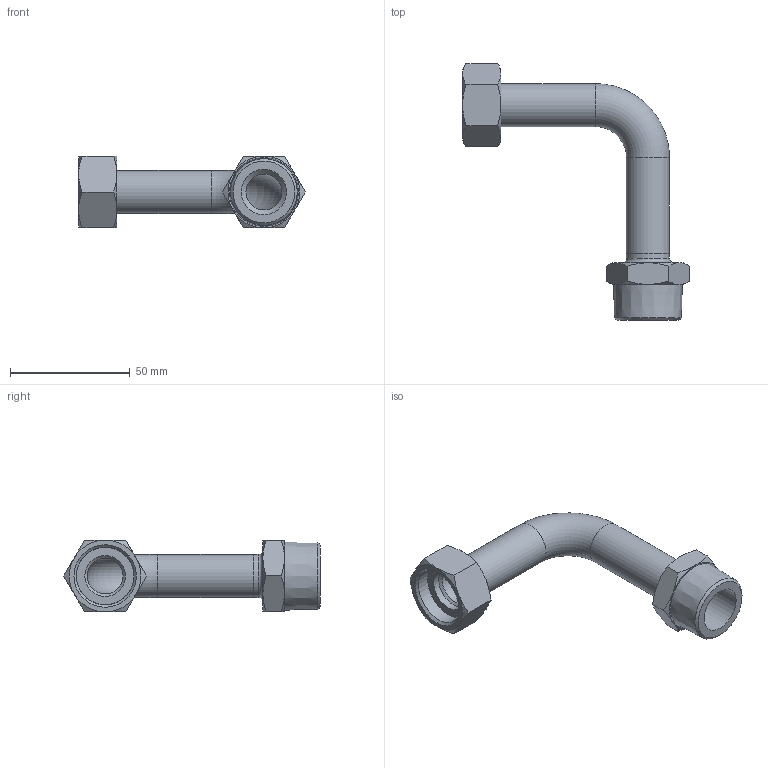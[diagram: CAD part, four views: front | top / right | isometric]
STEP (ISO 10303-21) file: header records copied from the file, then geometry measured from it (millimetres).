
FILE_DESCRIPTION((''),'2;1');
FILE_NAME('G:\Nirosan-Schmiedefeld\Technics\CAD\Bauteile VA\018\69002mg3434(3).stp','2011-06-30T14:13:04',('herberg'),(''),'Autodesk Inventor 2009','Autodesk Inventor 2009','');
FILE_SCHEMA(('AUTOMOTIVE_DESIGN { 1 0 10303 214 1 1 1 1 }'));
Length unit declared in the file: millimetre
Products named in the file (6): 69002mg3434(3); B_69002MG3434(2); R1834(0); AG1834(2); FD_2417_EPDM(0); SM1834(2)
Assembly tree (5 placements, depth 2):
  69002mg3434(3)
    B_69002MG3434(2)
    R1834(0)
    AG1834(2)
    FD_2417_EPDM(0)
    SM1834(2)
Bounding box: 94.82 x 107.32 x 30 mm (x, y, z)
Volume: 26254.9 mm3; surface area: 22537.8 mm2
Topology: 5 solids, 5 shells, 73 faces, 145 edges, 86 vertices
Faces by surface type: cone 28, plane 25, cylinder 10, bspline 8, torus 2
Full cylindrical faces by diameter (mm): 15 x3, 17 x1, 18 x4, 23 x1, 24 x1
Entity records: 2025 total; most frequent: CARTESIAN_POINT 558, DIRECTION 282, ORIENTED_EDGE 238, AXIS2_PLACEMENT_3D 135, EDGE_CURVE 119, EDGE_LOOP 110, VERTEX_POINT 83, FACE_OUTER_BOUND 73
